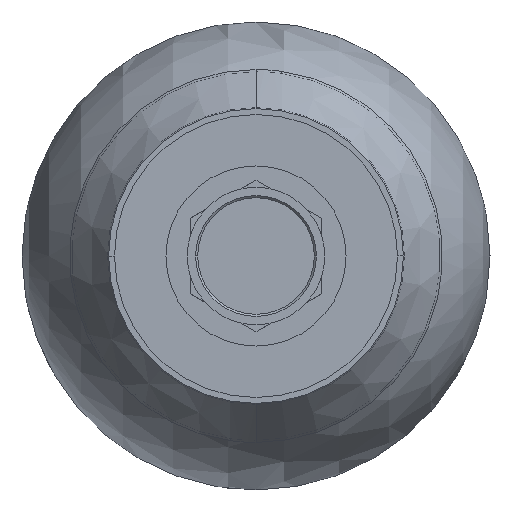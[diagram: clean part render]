
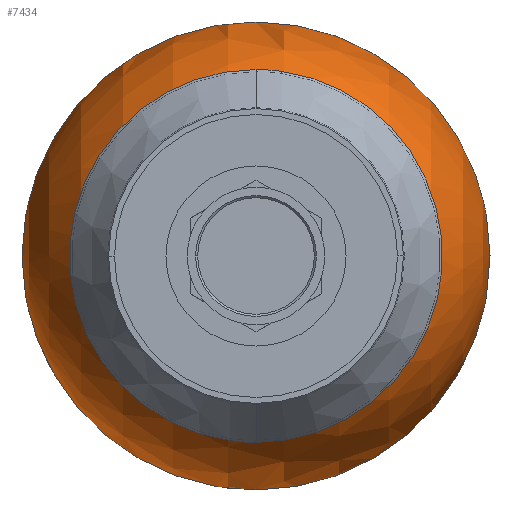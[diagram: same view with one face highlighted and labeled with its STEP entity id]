
A CAD part, front view. The second image highlights one B-rep face of the part: STEP entity #7434.
In plain terms, the highlighted spherical face has radius 57.15 mm.
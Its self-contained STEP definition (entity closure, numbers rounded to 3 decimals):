
#7001=CARTESIAN_POINT('',(-140.659,63.5,0.0));
#7002=VERTEX_POINT('',#7001);
#7017=CARTESIAN_POINT('',(-140.659,-50.8,0.));
#7018=VERTEX_POINT('',#7017);
#7025=CARTESIAN_POINT('',(-140.659,6.35,0.0));
#7026=DIRECTION('',(1.0,0.0,0.0));
#7027=DIRECTION('',(0.0,1.0,0.0));
#7028=AXIS2_PLACEMENT_3D('',#7025,#7026,#7027);
#7029=CIRCLE('',#7028,57.15);
#7030=EDGE_CURVE('',#7018,#7002,#7029,.T.);
#7176=CARTESIAN_POINT('',(-140.659,6.35,0.0));
#7177=DIRECTION('',(1.0,0.0,0.0));
#7178=DIRECTION('',(0.0,1.0,0.0));
#7179=AXIS2_PLACEMENT_3D('',#7176,#7177,#7178);
#7180=CIRCLE('',#7179,57.15);
#7181=EDGE_CURVE('',#7002,#7018,#7180,.T.);
#7406=CARTESIAN_POINT('',(-193.405,28.35,0.0));
#7407=VERTEX_POINT('',#7406);
#7408=CARTESIAN_POINT('',(-193.405,6.35,0.0));
#7409=DIRECTION('',(1.0,0.0,0.0));
#7410=DIRECTION('',(0.0,1.0,0.0));
#7411=AXIS2_PLACEMENT_3D('',#7408,#7409,#7410);
#7412=CIRCLE('',#7411,22.);
#7413=EDGE_CURVE('',#7407,#7407,#7412,.T.);
#7422=CARTESIAN_POINT('',(-140.659,6.35,0.0));
#7423=DIRECTION('',(0.0,0.0,1.0));
#7424=DIRECTION('',(1.0,0.0,0.0));
#7425=AXIS2_PLACEMENT_3D('',#7422,#7423,#7424);
#7426=SPHERICAL_SURFACE('',#7425,57.15);
#7427=ORIENTED_EDGE('',*,*,#7181,.F.);
#7428=ORIENTED_EDGE('',*,*,#7030,.F.);
#7429=EDGE_LOOP('',(#7427,#7428));
#7430=FACE_OUTER_BOUND('',#7429,.T.);
#7431=ORIENTED_EDGE('',*,*,#7413,.T.);
#7432=EDGE_LOOP('',(#7431));
#7433=FACE_BOUND('',#7432,.T.);
#7434=ADVANCED_FACE('',(#7430,#7433),#7426,.T.);
